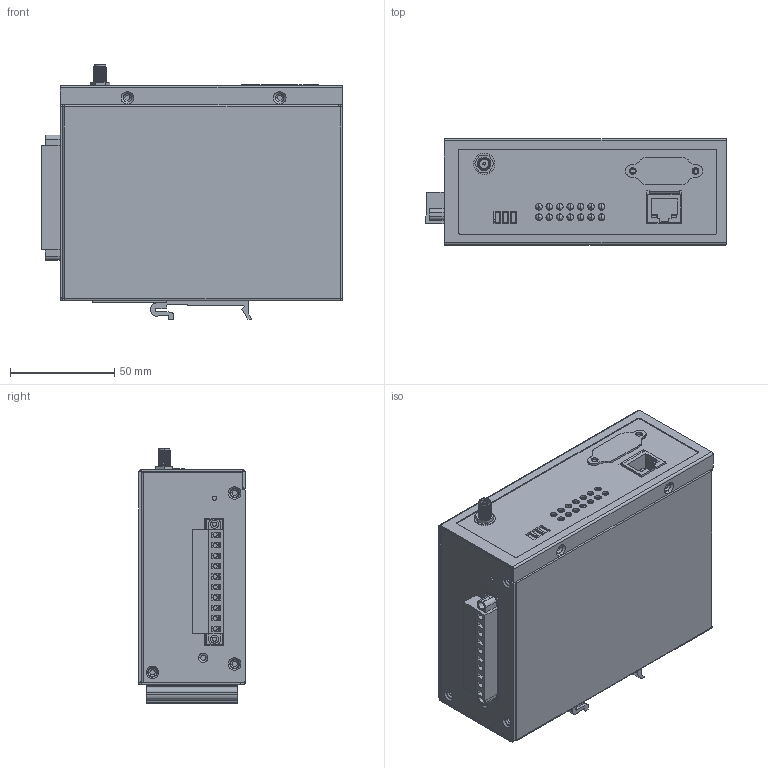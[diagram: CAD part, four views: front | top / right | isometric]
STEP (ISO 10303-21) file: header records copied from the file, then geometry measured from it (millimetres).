
FILE_DESCRIPTION((''),'2;1');
FILE_NAME('ONCELL_5104','2012-04-19T',('Vincent_Huang'),(''),'PRO/ENGINEER BY PARAMETRIC TECHNOLOGY CORPORATION, 2004320','PRO/ENGINEER BY PARAMETRIC TECHNOLOGY CORPORATION, 2004320','');
FILE_SCHEMA(('CONFIG_CONTROL_DESIGN'));
Products named in the file (1): ONCELL_5104
Bounding box: 144.45 x 50.8 x 121.9 mm (x, y, z)
Surface area: 210246.5 mm2 (no closed solid volume)
Topology: 0 solids, 50 shells, 2368 faces, 5883 edges, 3856 vertices
Faces by surface type: plane 1422, cylinder 779, bspline 71, torus 62, cone 34
Entity records: 75278 total; most frequent: CARTESIAN_POINT 17315, DIRECTION 12147, ORIENTED_EDGE 11738, EDGE_CURVE 5883, AXIS2_PLACEMENT_3D 4206, VERTEX_POINT 3856, VECTOR 3735, LINE 3735
